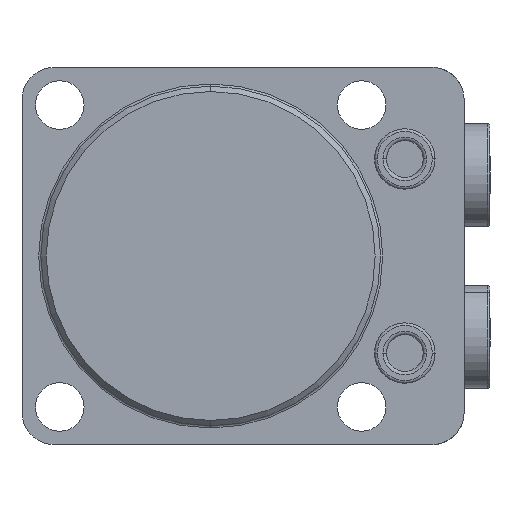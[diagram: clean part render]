
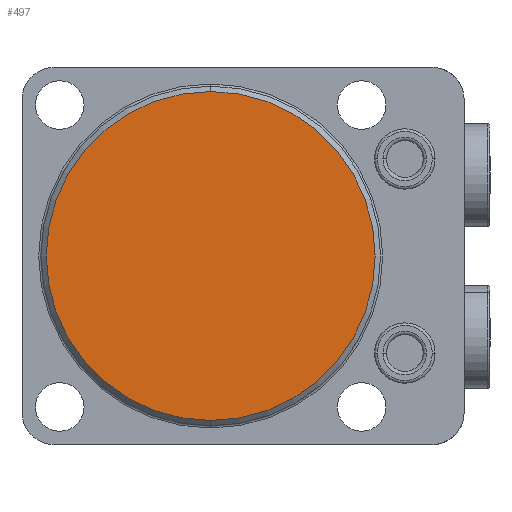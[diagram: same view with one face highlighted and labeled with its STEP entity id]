
A CAD part, front view. The second image highlights one B-rep face of the part: STEP entity #497.
In plain terms, the highlighted planar face has unit normal (0, -1, 0).
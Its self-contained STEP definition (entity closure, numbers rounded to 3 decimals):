
#219=PLANE('',#3311);
#497=ADVANCED_FACE('',(#708),#219,.F.);
#708=FACE_OUTER_BOUND('',#894,.T.);
#894=EDGE_LOOP('',(#1861,#1862));
#1861=ORIENTED_EDGE('',*,*,#2758,.T.);
#1862=ORIENTED_EDGE('',*,*,#2693,.T.);
#2345=VERTEX_POINT('',#5133);
#2346=VERTEX_POINT('',#5134);
#2693=EDGE_CURVE('',#2345,#2346,#2962,.T.);
#2758=EDGE_CURVE('',#2346,#2345,#2988,.T.);
#2962=CIRCLE('',#3270,30.5);
#2988=CIRCLE('',#3310,30.5);
#3270=AXIS2_PLACEMENT_3D('',#5132,#4009,#4010);
#3310=AXIS2_PLACEMENT_3D('',#5267,#4123,#4124);
#3311=AXIS2_PLACEMENT_3D('',#5268,#4125,#4126);
#4009=DIRECTION('',(0.,-1.,0.));
#4010=DIRECTION('',(0.,0.,1.));
#4123=DIRECTION('',(0.,-1.,0.));
#4124=DIRECTION('',(0.,0.,1.));
#4125=DIRECTION('',(0.,1.,0.));
#4126=DIRECTION('',(0.,0.,-1.));
#5132=CARTESIAN_POINT('',(0.,0.,0.));
#5133=CARTESIAN_POINT('',(0.,0.,-30.5));
#5134=CARTESIAN_POINT('',(0.,0.,30.5));
#5267=CARTESIAN_POINT('',(0.,0.,0.));
#5268=CARTESIAN_POINT('',(-35.,0.,35.));
